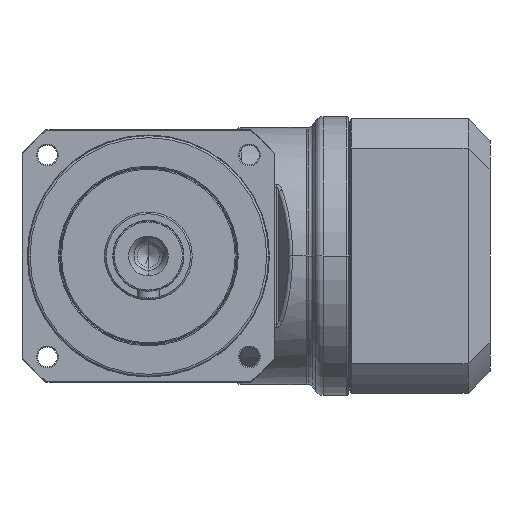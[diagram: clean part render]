
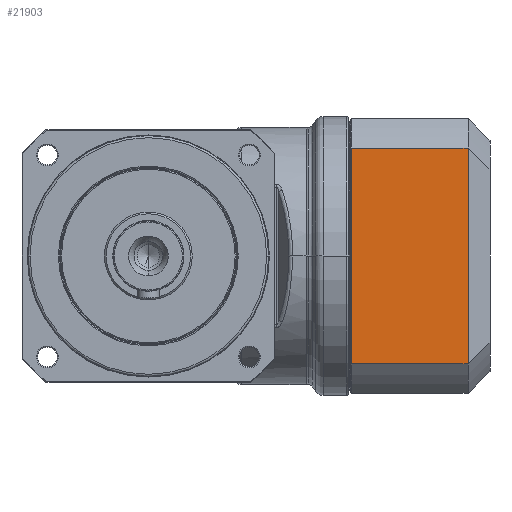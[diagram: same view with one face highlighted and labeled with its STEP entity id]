
A CAD part, left-side view. The second image highlights one B-rep face of the part: STEP entity #21903.
In plain terms, the highlighted planar face has unit normal (-1, 0, 0) as drawn and (0, -1, 0) by its records, which use the part's own axes.
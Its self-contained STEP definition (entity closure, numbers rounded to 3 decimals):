
#20657=DIRECTION('',(1.,0.,0.));
#20658=VECTOR('',#20657,98.265);
#20659=CARTESIAN_POINT('',(-49.132,-62.5,56.));
#20660=LINE('',#20659,#20658);
#20661=DIRECTION('',(0.,0.,1.));
#20662=VECTOR('',#20661,53.1);
#20663=CARTESIAN_POINT('',(49.132,-62.5,
2.9));
#20664=LINE('',#20663,#20662);
#20665=DIRECTION('',(1.,0.,0.));
#20666=VECTOR('',#20665,98.265);
#20667=CARTESIAN_POINT('',(-49.132,-62.5,
2.9));
#20668=LINE('',#20667,#20666);
#20669=DIRECTION('',(0.,0.,1.));
#20670=VECTOR('',#20669,53.1);
#20671=CARTESIAN_POINT('',(-49.132,-62.5,
2.9));
#20672=LINE('',#20671,#20670);
#20678=CARTESIAN_POINT('',(49.132,-62.5,56.));
#20993=CARTESIAN_POINT('',(-49.132,-62.5,2.9));
#20995=VERTEX_POINT('',#20993);
#20998=CARTESIAN_POINT('',(49.132,-62.5,
2.9));
#20999=VERTEX_POINT('',#20998);
#21045=CARTESIAN_POINT('',(-49.132,-62.5,56.));
#21047=VERTEX_POINT('',#21045);
#21055=VERTEX_POINT('',#20678);
#21891=CARTESIAN_POINT('',(-62.5,-62.5,0.));
#21892=DIRECTION('',(0.,-1.,0.));
#21893=DIRECTION('',(1.,0.,0.));
#21894=AXIS2_PLACEMENT_3D('',#21891,#21892,#21893);
#21895=PLANE('',#21894);
#21897=ORIENTED_EDGE('',*,*,#21896,.T.);
#21898=ORIENTED_EDGE('',*,*,#21807,.F.);
#21899=ORIENTED_EDGE('',*,*,#21885,.F.);
#21900=ORIENTED_EDGE('',*,*,#21818,.T.);
#21901=EDGE_LOOP('',(#21897,#21898,#21899,#21900));
#21902=FACE_OUTER_BOUND('',#21901,.F.);
#21903=ADVANCED_FACE('',(#21902),#21895,.T.);
#21807=EDGE_CURVE('',#20999,#21055,#20664,.T.);
#21818=EDGE_CURVE('',#20995,#21047,#20672,.T.);
#21885=EDGE_CURVE('',#20995,#20999,#20668,.T.);
#21896=EDGE_CURVE('',#21047,#21055,#20660,.T.);
